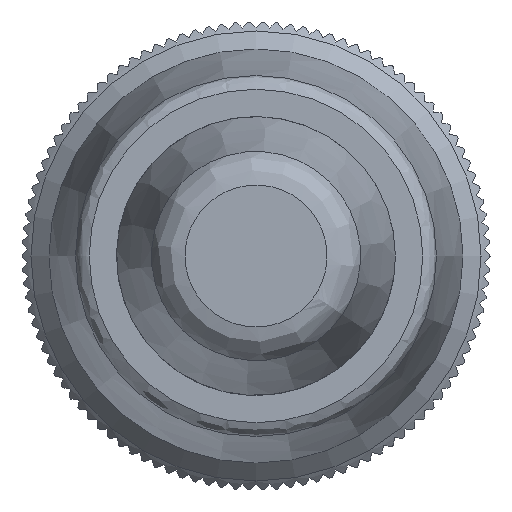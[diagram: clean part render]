
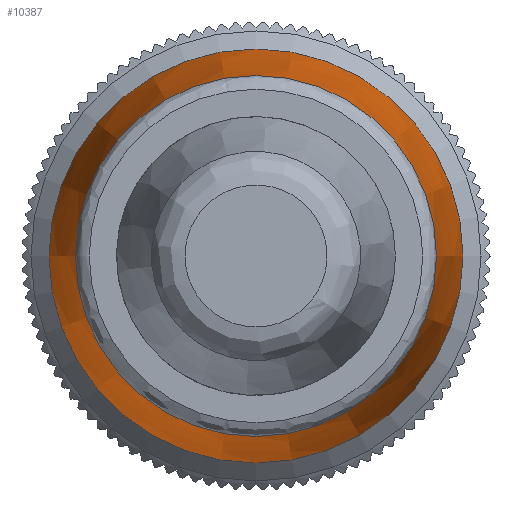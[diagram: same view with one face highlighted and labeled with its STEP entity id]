
A CAD part, front view. The second image highlights one B-rep face of the part: STEP entity #10387.
In plain terms, the highlighted conical face has half-angle 5.648 degrees and reference radius 11.5 mm.
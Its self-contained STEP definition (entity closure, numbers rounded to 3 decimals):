
#66 = ORIENTED_EDGE ( 'NONE', *, *, #7796, .T. ) ;
#173 = CARTESIAN_POINT ( 'NONE',  ( 11.5, -0.554, 0. ) ) ;
#680 = AXIS2_PLACEMENT_3D ( 'NONE', #2716, #10868, #5362 ) ;
#750 = EDGE_LOOP ( 'NONE', ( #9652 ) ) ;
#829 = VERTEX_POINT ( 'NONE', #173 ) ;
#1121 = VERTEX_POINT ( 'NONE', #2812 ) ;
#1573 = CONICAL_SURFACE ( 'NONE', #4056, 11.5, 0.099 ) ;
#1860 = FACE_BOUND ( 'NONE', #750, .T. ) ;
#2716 = CARTESIAN_POINT ( 'NONE',  ( 0., -0.554, 0. ) ) ;
#2812 = CARTESIAN_POINT ( 'NONE',  ( 10.028, -15.441, 0. ) ) ;
#4056 = AXIS2_PLACEMENT_3D ( 'NONE', #9276, #10172, #5607 ) ;
#4392 = AXIS2_PLACEMENT_3D ( 'NONE', #7891, #10476, #7798 ) ;
#4891 = EDGE_CURVE ( 'NONE', #1121, #1121, #9942, .T. ) ;
#5362 = DIRECTION ( 'NONE',  ( 1., 0., 0. ) ) ;
#5607 = DIRECTION ( 'NONE',  ( -1., 0., 0. ) ) ;
#5613 = EDGE_LOOP ( 'NONE', ( #66 ) ) ;
#7654 = FACE_OUTER_BOUND ( 'NONE', #5613, .T. ) ;
#7796 = EDGE_CURVE ( 'NONE', #829, #829, #7970, .T. ) ;
#7798 = DIRECTION ( 'NONE',  ( 1., 0., 0. ) ) ;
#7891 = CARTESIAN_POINT ( 'NONE',  ( 0., -15.441, 0. ) ) ;
#7970 = CIRCLE ( 'NONE', #680, 11.5 ) ;
#9276 = CARTESIAN_POINT ( 'NONE',  ( 0., -0.554, 0. ) ) ;
#9652 = ORIENTED_EDGE ( 'NONE', *, *, #4891, .T. ) ;
#9942 = CIRCLE ( 'NONE', #4392, 10.028 ) ;
#10172 = DIRECTION ( 'NONE',  ( 0., 1., 0. ) ) ;
#10387 = ADVANCED_FACE ( 'NONE', ( #1860, #7654 ), #1573, .T. ) ;
#10476 = DIRECTION ( 'NONE',  ( 0., 1., 0. ) ) ;
#10868 = DIRECTION ( 'NONE',  ( 0., -1., 0. ) ) ;
